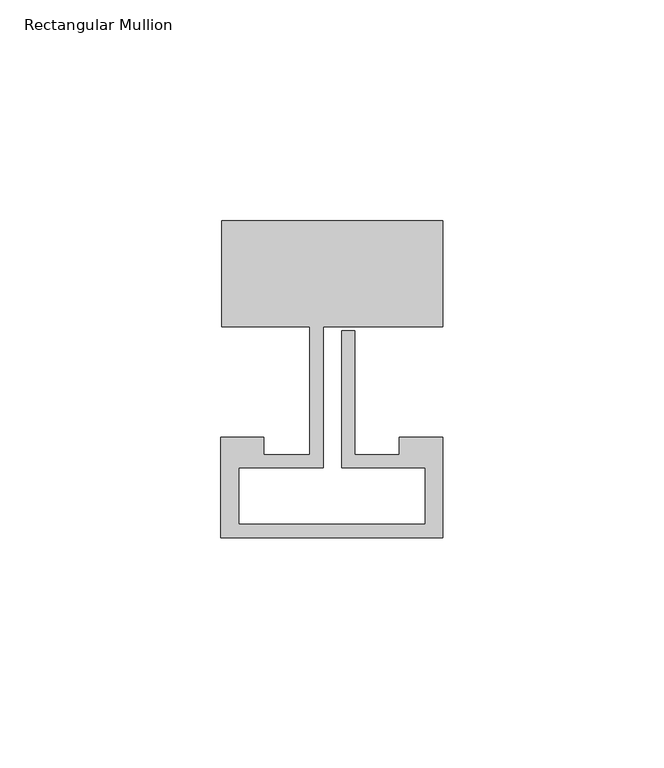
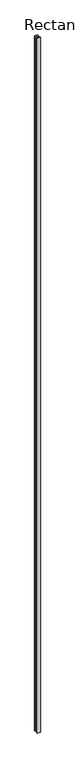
"""IFC4 building model written with IfcOpenShell, lengths in millimetres: member geometry, Rectangular Mullion : Reynaers_CW-50_Mullion-Transom_Horizontal_23.9mm_Facecap-02C."""

from ifc_helpers import new_model, si_unit, frame, origin, place, context, project, spatial, polyline, outline, extrude, source, transform, mapped, element, save


def rectangular_mullion_59970314(model_context):
    return source(origin(), model_context, "Body", "SweptSolid", [
        extrude(outline(polyline([(-24.8004059, 36.4), (25.1995941, 36.4), (25.1995941, 12.5), (-1.9004059, 12.5), (-1.9004059, -19.5), (-20.994845, -19.5), (-20.994845, -32.2191338), (21.1995941, -32.2191338), (21.1995941, -19.5), (2.2995941, -19.5), (2.2995941, 11.5), (5.2995941, 11.5), (5.2995941, -16.5), (15.2996495, -16.5), (15.2996495, -12.5), (25.1995941, -12.5), (25.1995941, -35.3), (-24.994845, -35.3), (-24.994845, -12.5), (-15.2996495, -12.5), (-15.2996495, -16.5), (-4.9004059, -16.5), (-4.9004059, 12.5), (-24.8004059, 12.5), (-24.8004059, 36.4)])), frame((0.0, 0.0, -12000.0), z_axis=(0.0, 0.0, 1.0), x_axis=(1.0, 0.0, 0.0)), (0.0, 0.0, 1.0), 12000.0),
    ])


if __name__ == "__main__":
    model = new_model("IFC4")
    model_context = context("Model", 3, world=origin())
    ifc_project = project(units=[si_unit("LENGTHUNIT", "METRE", prefix="MILLI")], contexts=[model_context])
    site = spatial("IfcSite", under=ifc_project)
    building = spatial("IfcBuilding", under=site)
    placement = place(None, origin())
    rectangular_mullion_shape = rectangular_mullion_59970314(model_context)
    element("IfcMember", 1, ObjectType="Rectangular Mullion : Reynaers_CW-50_Mullion-Transom_Horizontal_23.9mm_Facecap-02C", at=placement, inside=building, context=model_context, shape_type="MappedRepresentation", body=[
        mapped(rectangular_mullion_shape, transform((0.0, 0.0, 0.0), x_axis=(1.0, 0.0, 0.0), y_axis=(0.0, 1.0, 0.0), z_axis=(0.0, 0.0, 1.0))),
    ])
    save(model, "model.ifc")
